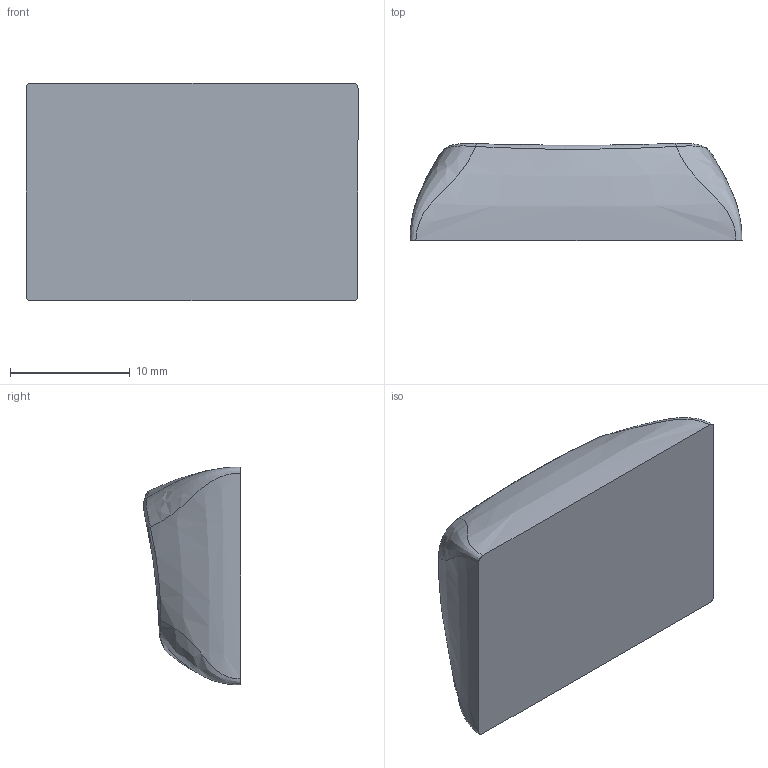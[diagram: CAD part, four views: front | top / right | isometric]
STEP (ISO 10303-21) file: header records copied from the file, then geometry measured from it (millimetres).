
FILE_DESCRIPTION (( 'STEP AP203' ), '1' );
FILE_NAME ('R2_1,5U_base_v3.2_GMK.STEP', '2023-03-07T08:51:11', ( '' ), ( '' ), 'SwSTEP 2.0', 'SolidWorks 2022', '' );
FILE_SCHEMA (( 'CONFIG_CONTROL_DESIGN' ));
Length unit declared in the file: millimetre
Products named in the file (1): R2_1,5U_base_v3.2_GMK
Bounding box: 27.72 x 8.1 x 18.2 mm (x, y, z)
Volume: 2958.7 mm3; surface area: 1428.8 mm2
Topology: 1 solids, 1 shells, 18 faces, 40 edges, 24 vertices
Faces by surface type: bspline 17, plane 1
Entity records: 2794 total; most frequent: CARTESIAN_POINT 2463, ORIENTED_EDGE 80, EDGE_CURVE 40, B_SPLINE_CURVE_WITH_KNOTS 36, VERTEX_POINT 24, EDGE_LOOP 18, ADVANCED_FACE 18, FACE_OUTER_BOUND 18
